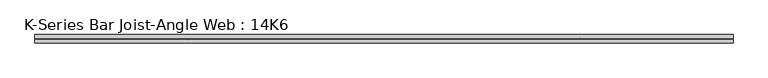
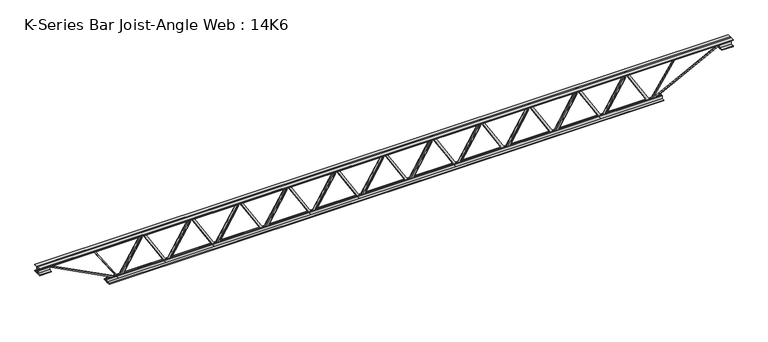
"""IFC4 building model written with IfcOpenShell, lengths in millimetres: beam geometry, K-Series Bar Joist-Angle Web : 14K6."""

from ifc_helpers import new_model, si_unit, frame, origin, place, context, project, spatial, polyline, outline, extrude, faceted_brep, source, transform, mapped, element, save


def k_series_bar_joist_angle_web_14k6_8be7365d(model_context):
    return source(origin(), model_context, "Body", "SolidModel", [
        extrude(outline(polyline([(-4.7625, 4.7625), (-4.7625, 0.0), (-17.4625, 0.0), (-17.4625, 4.7625), (-4.7625, 4.7625)])), frame((1879.0809131, 0.0, -139.7), z_axis=(-0.5175721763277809, 0.0, 0.8556395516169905), x_axis=(0.0, -1.0, 0.0)), (0.0, 0.0, 1.0), 326.5393698),
        extrude(outline(polyline([(-174.625, 1911.9272727), (-155.575, 1911.9272727), (-155.575, 1910.9476708), (174.625, 1711.2113072), (174.625, 1693.1409091), (155.575, 1693.1409091), (155.575, 1700.470511), (-174.625, 1900.2068746), (-174.625, 1911.9272727)])), frame((0.0, 0.0, 0.0), z_axis=(0.0, 1.0, 0.0), x_axis=(0.0, 0.0, 1.0)), (0.0, 0.0, 1.0), 4.7625),
        faceted_brep([(1487.0545455, 0.0, -155.575), (1487.0545455, 0.0, -174.625), (1487.0545455, -4.7625, -174.625), (1487.0545455, -4.7625, -155.575), (1488.0341474, 0.0, -155.575), (1687.770511, 0.0, 174.625), (1705.8409091, 0.0, 174.625), (1705.8409091, 0.0, 155.575), (1698.5113072, 0.0, 155.575), (1498.7749436, 0.0, -174.625), (1498.7749436, -4.7625, -174.625), (1519.9009051, -4.7625, -139.7), (1515.8259217, -4.7625, -137.2350625), (1684.833614, -4.7625, 142.1649375), (1688.9085974, -4.7625, 139.7), (1698.5113072, -4.7625, 155.575), (1705.8409091, -4.7625, 155.575), (1705.8409091, -4.7625, 174.625), (1687.770511, -4.7625, 174.625), (1488.0341474, -4.7625, -155.575), (1688.9085974, -17.4625, 139.7), (1519.9009051, -17.4625, -139.7), (1515.8259217, -17.4625, -137.2350625), (1684.833614, -17.4625, 142.1649375)], [[[0, 1, 2, 3]], [[1, 0, 4, 5, 6, 7, 8, 9]], [[2, 1, 9, 10]], [[3, 2, 10, 11, 12, 13, 14, 15, 16, 17, 18, 19]], [[0, 3, 19, 4]], [[9, 8, 15, 14, 20, 21, 11, 10]], [[5, 4, 19, 18]], [[7, 6, 17, 16]], [[8, 7, 16, 15]], [[6, 5, 18, 17]], [[21, 22, 12, 11]], [[20, 14, 13, 23]], [[22, 21, 20, 23]], [[12, 22, 23, 13]]]),
        extrude(outline(polyline([(-4.7625, 4.7625), (-4.7625, 0.0), (-17.4625, 0.0), (-17.4625, 4.7625), (-4.7625, 4.7625)])), frame((1454.2081858, 0.0, -139.7), z_axis=(-0.5175721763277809, 0.0, 0.8556395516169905), x_axis=(0.0, -1.0, 0.0)), (0.0, 0.0, 1.0), 326.5393698),
        extrude(outline(polyline([(-174.625, 1487.0545455), (-155.575, 1487.0545455), (-155.575, 1486.0749436), (174.625, 1286.3385799), (174.625, 1268.2681818), (155.575, 1268.2681818), (155.575, 1275.5977837), (-174.625, 1475.3341474), (-174.625, 1487.0545455)])), frame((0.0, 0.0, 0.0), z_axis=(0.0, 1.0, 0.0), x_axis=(0.0, 0.0, 1.0)), (0.0, 0.0, 1.0), 4.7625),
        faceted_brep([(1062.1818182, 0.0, -155.575), (1062.1818182, 0.0, -174.625), (1062.1818182, -4.7625, -174.625), (1062.1818182, -4.7625, -155.575), (1063.1614201, 0.0, -155.575), (1262.8977837, 0.0, 174.625), (1280.9681818, 0.0, 174.625), (1280.9681818, 0.0, 155.575), (1273.6385799, 0.0, 155.575), (1073.9022163, 0.0, -174.625), (1073.9022163, -4.7625, -174.625), (1095.0281778, -4.7625, -139.7), (1090.9531945, -4.7625, -137.2350625), (1259.9608868, -4.7625, 142.1649375), (1264.0358701, -4.7625, 139.7), (1273.6385799, -4.7625, 155.575), (1280.9681818, -4.7625, 155.575), (1280.9681818, -4.7625, 174.625), (1262.8977837, -4.7625, 174.625), (1063.1614201, -4.7625, -155.575), (1264.0358701, -17.4625, 139.7), (1095.0281778, -17.4625, -139.7), (1090.9531945, -17.4625, -137.2350625), (1259.9608868, -17.4625, 142.1649375)], [[[0, 1, 2, 3]], [[1, 0, 4, 5, 6, 7, 8, 9]], [[2, 1, 9, 10]], [[3, 2, 10, 11, 12, 13, 14, 15, 16, 17, 18, 19]], [[0, 3, 19, 4]], [[9, 8, 15, 14, 20, 21, 11, 10]], [[5, 4, 19, 18]], [[7, 6, 17, 16]], [[8, 7, 16, 15]], [[6, 5, 18, 17]], [[21, 22, 12, 11]], [[20, 14, 13, 23]], [[22, 21, 20, 23]], [[12, 22, 23, 13]]]),
        extrude(outline(polyline([(-4.7625, 4.7625), (-4.7625, 0.0), (-17.4625, 0.0), (-17.4625, 4.7625), (-4.7625, 4.7625)])), frame((1029.3354585, 0.0, -139.7), z_axis=(-0.5175721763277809, 0.0, 0.8556395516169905), x_axis=(0.0, -1.0, 0.0)), (0.0, 0.0, 1.0), 326.5393698),
        extrude(outline(polyline([(-174.625, 1062.1818182), (-155.575, 1062.1818182), (-155.575, 1061.2022163), (174.625, 861.4658526), (174.625, 843.3954545), (155.575, 843.3954545), (155.575, 850.7250564), (-174.625, 1050.4614201), (-174.625, 1062.1818182)])), frame((0.0, 0.0, 0.0), z_axis=(0.0, 1.0, 0.0), x_axis=(0.0, 0.0, 1.0)), (0.0, 0.0, 1.0), 4.7625),
        faceted_brep([(637.3090909, 0.0, -155.575), (637.3090909, 0.0, -174.625), (637.3090909, -4.7625, -174.625), (637.3090909, -4.7625, -155.575), (638.2886928, 0.0, -155.575), (838.0250564, 0.0, 174.625), (856.0954545, 0.0, 174.625), (856.0954545, 0.0, 155.575), (848.7658526, 0.0, 155.575), (649.029489, 0.0, -174.625), (649.029489, -4.7625, -174.625), (670.1554505, -4.7625, -139.7), (666.0804672, -4.7625, -137.2350625), (835.0881595, -4.7625, 142.1649375), (839.1631429, -4.7625, 139.7), (848.7658526, -4.7625, 155.575), (856.0954545, -4.7625, 155.575), (856.0954545, -4.7625, 174.625), (838.0250564, -4.7625, 174.625), (638.2886928, -4.7625, -155.575), (839.1631429, -17.4625, 139.7), (670.1554505, -17.4625, -139.7), (666.0804672, -17.4625, -137.2350625), (835.0881595, -17.4625, 142.1649375)], [[[0, 1, 2, 3]], [[1, 0, 4, 5, 6, 7, 8, 9]], [[2, 1, 9, 10]], [[3, 2, 10, 11, 12, 13, 14, 15, 16, 17, 18, 19]], [[0, 3, 19, 4]], [[9, 8, 15, 14, 20, 21, 11, 10]], [[5, 4, 19, 18]], [[7, 6, 17, 16]], [[8, 7, 16, 15]], [[6, 5, 18, 17]], [[21, 22, 12, 11]], [[20, 14, 13, 23]], [[22, 21, 20, 23]], [[12, 22, 23, 13]]]),
        extrude(outline(polyline([(-4.7625, 4.7625), (-4.7625, 0.0), (-17.4625, 0.0), (-17.4625, 4.7625), (-4.7625, 4.7625)])), frame((604.4627313, 0.0, -139.7), z_axis=(-0.5175721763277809, 0.0, 0.8556395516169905), x_axis=(0.0, -1.0, 0.0)), (0.0, 0.0, 1.0), 326.5393698),
        extrude(outline(polyline([(-174.625, 637.3090909), (-155.575, 637.3090909), (-155.575, 636.329489), (174.625, 436.5931254), (174.625, 418.5227273), (155.575, 418.5227273), (155.575, 425.8523292), (-174.625, 625.5886928), (-174.625, 637.3090909)])), frame((0.0, 0.0, 0.0), z_axis=(0.0, 1.0, 0.0), x_axis=(0.0, 0.0, 1.0)), (0.0, 0.0, 1.0), 4.7625),
        faceted_brep([(212.4363636, 0.0, -155.575), (212.4363636, 0.0, -174.625), (212.4363636, -4.7625, -174.625), (212.4363636, -4.7625, -155.575), (213.4159655, 0.0, -155.575), (413.1523292, 0.0, 174.625), (431.2227273, 0.0, 174.625), (431.2227273, 0.0, 155.575), (423.8931254, 0.0, 155.575), (224.1567617, 0.0, -174.625), (224.1567617, -4.7625, -174.625), (245.2827233, -4.7625, -139.7), (241.2077399, -4.7625, -137.2350625), (410.2154322, -4.7625, 142.1649375), (414.2904156, -4.7625, 139.7), (423.8931254, -4.7625, 155.575), (431.2227273, -4.7625, 155.575), (431.2227273, -4.7625, 174.625), (413.1523292, -4.7625, 174.625), (213.4159655, -4.7625, -155.575), (414.2904156, -17.4625, 139.7), (245.2827233, -17.4625, -139.7), (241.2077399, -17.4625, -137.2350625), (410.2154322, -17.4625, 142.1649375)], [[[0, 1, 2, 3]], [[1, 0, 4, 5, 6, 7, 8, 9]], [[2, 1, 9, 10]], [[3, 2, 10, 11, 12, 13, 14, 15, 16, 17, 18, 19]], [[0, 3, 19, 4]], [[9, 8, 15, 14, 20, 21, 11, 10]], [[5, 4, 19, 18]], [[7, 6, 17, 16]], [[8, 7, 16, 15]], [[6, 5, 18, 17]], [[21, 22, 12, 11]], [[20, 14, 13, 23]], [[22, 21, 20, 23]], [[12, 22, 23, 13]]]),
        extrude(outline(polyline([(-4.7625, 4.7625), (-4.7625, 0.0), (-17.4625, 0.0), (-17.4625, 4.7625), (-4.7625, 4.7625)])), frame((179.590004, 0.0, -139.7), z_axis=(-0.5175721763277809, 0.0, 0.8556395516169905), x_axis=(0.0, -1.0, 0.0)), (0.0, 0.0, 1.0), 326.5393698),
        extrude(outline(polyline([(-174.625, 212.4363636), (-155.575, 212.4363636), (-155.575, 211.4567617), (174.625, 11.7203981), (174.625, -6.35), (155.575, -6.35), (155.575, 0.9796019), (-174.625, 200.7159655), (-174.625, 212.4363636)])), frame((0.0, 0.0, 0.0), z_axis=(0.0, 1.0, 0.0), x_axis=(0.0, 0.0, 1.0)), (0.0, 0.0, 1.0), 4.7625),
        faceted_brep([(-212.4363636, 0.0, -155.575), (-212.4363636, 0.0, -174.625), (-212.4363636, -4.7625, -174.625), (-212.4363636, -4.7625, -155.575), (-211.4567617, 0.0, -155.575), (-11.7203981, 0.0, 174.625), (6.35, 0.0, 174.625), (6.35, 0.0, 155.575), (-0.9796019, 0.0, 155.575), (-200.7159655, 0.0, -174.625), (-200.7159655, -4.7625, -174.625), (-179.590004, -4.7625, -139.7), (-183.6649874, -4.7625, -137.2350625), (-14.6572951, -4.7625, 142.1649375), (-10.5823117, -4.7625, 139.7), (-0.9796019, -4.7625, 155.575), (6.35, -4.7625, 155.575), (6.35, -4.7625, 174.625), (-11.7203981, -4.7625, 174.625), (-211.4567617, -4.7625, -155.575), (-10.5823117, -17.4625, 139.7), (-179.590004, -17.4625, -139.7), (-183.6649874, -17.4625, -137.2350625), (-14.6572951, -17.4625, 142.1649375)], [[[0, 1, 2, 3]], [[1, 0, 4, 5, 6, 7, 8, 9]], [[2, 1, 9, 10]], [[3, 2, 10, 11, 12, 13, 14, 15, 16, 17, 18, 19]], [[0, 3, 19, 4]], [[9, 8, 15, 14, 20, 21, 11, 10]], [[5, 4, 19, 18]], [[7, 6, 17, 16]], [[8, 7, 16, 15]], [[6, 5, 18, 17]], [[21, 22, 12, 11]], [[20, 14, 13, 23]], [[22, 21, 20, 23]], [[12, 22, 23, 13]]]),
        extrude(outline(polyline([(-4.7625, 4.7625), (-4.7625, 0.0), (-17.4625, 0.0), (-17.4625, 4.7625), (-4.7625, 4.7625)])), frame((-245.2827233, 0.0, -139.7), z_axis=(-0.5175721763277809, 0.0, 0.8556395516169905), x_axis=(0.0, -1.0, 0.0)), (0.0, 0.0, 1.0), 326.5393698),
        extrude(outline(polyline([(-174.625, -212.4363636), (-155.575, -212.4363636), (-155.575, -213.4159655), (174.625, -413.1523292), (174.625, -431.2227273), (155.575, -431.2227273), (155.575, -423.8931254), (-174.625, -224.1567617), (-174.625, -212.4363636)])), frame((0.0, 0.0, 0.0), z_axis=(0.0, 1.0, 0.0), x_axis=(0.0, 0.0, 1.0)), (0.0, 0.0, 1.0), 4.7625),
        faceted_brep([(-637.3090909, 0.0, -155.575), (-637.3090909, 0.0, -174.625), (-637.3090909, -4.7625, -174.625), (-637.3090909, -4.7625, -155.575), (-636.329489, 0.0, -155.575), (-436.5931254, 0.0, 174.625), (-418.5227273, 0.0, 174.625), (-418.5227273, 0.0, 155.575), (-425.8523292, 0.0, 155.575), (-625.5886928, 0.0, -174.625), (-625.5886928, -4.7625, -174.625), (-604.4627313, -4.7625, -139.7), (-608.5377146, -4.7625, -137.2350625), (-439.5300223, -4.7625, 142.1649375), (-435.455039, -4.7625, 139.7), (-425.8523292, -4.7625, 155.575), (-418.5227273, -4.7625, 155.575), (-418.5227273, -4.7625, 174.625), (-436.5931254, -4.7625, 174.625), (-636.329489, -4.7625, -155.575), (-435.455039, -17.4625, 139.7), (-604.4627313, -17.4625, -139.7), (-608.5377146, -17.4625, -137.2350625), (-439.5300223, -17.4625, 142.1649375)], [[[0, 1, 2, 3]], [[1, 0, 4, 5, 6, 7, 8, 9]], [[2, 1, 9, 10]], [[3, 2, 10, 11, 12, 13, 14, 15, 16, 17, 18, 19]], [[0, 3, 19, 4]], [[9, 8, 15, 14, 20, 21, 11, 10]], [[5, 4, 19, 18]], [[7, 6, 17, 16]], [[8, 7, 16, 15]], [[6, 5, 18, 17]], [[21, 22, 12, 11]], [[20, 14, 13, 23]], [[22, 21, 20, 23]], [[12, 22, 23, 13]]]),
        extrude(outline(polyline([(-4.7625, 4.7625), (-4.7625, 0.0), (-17.4625, 0.0), (-17.4625, 4.7625), (-4.7625, 4.7625)])), frame((-670.1554505, 0.0, -139.7), z_axis=(-0.5175721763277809, 0.0, 0.8556395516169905), x_axis=(0.0, -1.0, 0.0)), (0.0, 0.0, 1.0), 326.5393698),
        extrude(outline(polyline([(-174.625, -637.3090909), (-155.575, -637.3090909), (-155.575, -638.2886928), (174.625, -838.0250564), (174.625, -856.0954545), (155.575, -856.0954545), (155.575, -848.7658526), (-174.625, -649.029489), (-174.625, -637.3090909)])), frame((0.0, 0.0, 0.0), z_axis=(0.0, 1.0, 0.0), x_axis=(0.0, 0.0, 1.0)), (0.0, 0.0, 1.0), 4.7625),
        faceted_brep([(-1062.1818182, 0.0, -155.575), (-1062.1818182, 0.0, -174.625), (-1062.1818182, -4.7625, -174.625), (-1062.1818182, -4.7625, -155.575), (-1061.2022163, 0.0, -155.575), (-861.4658526, 0.0, 174.625), (-843.3954545, 0.0, 174.625), (-843.3954545, 0.0, 155.575), (-850.7250564, 0.0, 155.575), (-1050.4614201, 0.0, -174.625), (-1050.4614201, -4.7625, -174.625), (-1029.3354585, -4.7625, -139.7), (-1033.4104419, -4.7625, -137.2350625), (-864.4027496, -4.7625, 142.1649375), (-860.3277662, -4.7625, 139.7), (-850.7250564, -4.7625, 155.575), (-843.3954545, -4.7625, 155.575), (-843.3954545, -4.7625, 174.625), (-861.4658526, -4.7625, 174.625), (-1061.2022163, -4.7625, -155.575), (-860.3277662, -17.4625, 139.7), (-1029.3354585, -17.4625, -139.7), (-1033.4104419, -17.4625, -137.2350625), (-864.4027496, -17.4625, 142.1649375)], [[[0, 1, 2, 3]], [[1, 0, 4, 5, 6, 7, 8, 9]], [[2, 1, 9, 10]], [[3, 2, 10, 11, 12, 13, 14, 15, 16, 17, 18, 19]], [[0, 3, 19, 4]], [[9, 8, 15, 14, 20, 21, 11, 10]], [[5, 4, 19, 18]], [[7, 6, 17, 16]], [[8, 7, 16, 15]], [[6, 5, 18, 17]], [[21, 22, 12, 11]], [[20, 14, 13, 23]], [[22, 21, 20, 23]], [[12, 22, 23, 13]]]),
        extrude(outline(polyline([(-4.7625, 4.7625), (-4.7625, 0.0), (-17.4625, 0.0), (-17.4625, 4.7625), (-4.7625, 4.7625)])), frame((-1095.0281778, 0.0, -139.7), z_axis=(-0.5175721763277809, 0.0, 0.8556395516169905), x_axis=(0.0, -1.0, 0.0)), (0.0, 0.0, 1.0), 326.5393698),
        extrude(outline(polyline([(-174.625, -1062.1818182), (-155.575, -1062.1818182), (-155.575, -1063.1614201), (174.625, -1262.8977837), (174.625, -1280.9681818), (155.575, -1280.9681818), (155.575, -1273.6385799), (-174.625, -1073.9022163), (-174.625, -1062.1818182)])), frame((0.0, 0.0, 0.0), z_axis=(0.0, 1.0, 0.0), x_axis=(0.0, 0.0, 1.0)), (0.0, 0.0, 1.0), 4.7625),
        faceted_brep([(-1487.0545455, 0.0, -155.575), (-1487.0545455, 0.0, -174.625), (-1487.0545455, -4.7625, -174.625), (-1487.0545455, -4.7625, -155.575), (-1486.0749436, 0.0, -155.575), (-1286.3385799, 0.0, 174.625), (-1268.2681818, 0.0, 174.625), (-1268.2681818, 0.0, 155.575), (-1275.5977837, 0.0, 155.575), (-1475.3341474, 0.0, -174.625), (-1475.3341474, -4.7625, -174.625), (-1454.2081858, -4.7625, -139.7), (-1458.2831692, -4.7625, -137.2350625), (-1289.2754769, -4.7625, 142.1649375), (-1285.2004935, -4.7625, 139.7), (-1275.5977837, -4.7625, 155.575), (-1268.2681818, -4.7625, 155.575), (-1268.2681818, -4.7625, 174.625), (-1286.3385799, -4.7625, 174.625), (-1486.0749436, -4.7625, -155.575), (-1285.2004935, -17.4625, 139.7), (-1454.2081858, -17.4625, -139.7), (-1458.2831692, -17.4625, -137.2350625), (-1289.2754769, -17.4625, 142.1649375)], [[[0, 1, 2, 3]], [[1, 0, 4, 5, 6, 7, 8, 9]], [[2, 1, 9, 10]], [[3, 2, 10, 11, 12, 13, 14, 15, 16, 17, 18, 19]], [[0, 3, 19, 4]], [[9, 8, 15, 14, 20, 21, 11, 10]], [[5, 4, 19, 18]], [[7, 6, 17, 16]], [[8, 7, 16, 15]], [[6, 5, 18, 17]], [[21, 22, 12, 11]], [[20, 14, 13, 23]], [[22, 21, 20, 23]], [[12, 22, 23, 13]]]),
        extrude(outline(polyline([(-4.7625, 4.7625), (-4.7625, 0.0), (-17.4625, 0.0), (-17.4625, 4.7625), (-4.7625, 4.7625)])), frame((-1519.9009051, 0.0, -139.7), z_axis=(-0.5175721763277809, 0.0, 0.8556395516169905), x_axis=(0.0, -1.0, 0.0)), (0.0, 0.0, 1.0), 326.5393698),
        extrude(outline(polyline([(-174.625, -1487.0545455), (-155.575, -1487.0545455), (-155.575, -1488.0341474), (174.625, -1687.770511), (174.625, -1705.8409091), (155.575, -1705.8409091), (155.575, -1698.5113072), (-174.625, -1498.7749436), (-174.625, -1487.0545455)])), frame((0.0, 0.0, 0.0), z_axis=(0.0, 1.0, 0.0), x_axis=(0.0, 0.0, 1.0)), (0.0, 0.0, 1.0), 4.7625),
        faceted_brep([(-1911.9272727, 0.0, -155.575), (-1911.9272727, 0.0, -174.625), (-1911.9272727, -4.7625, -174.625), (-1911.9272727, -4.7625, -155.575), (-1910.9476708, 0.0, -155.575), (-1711.2113072, 0.0, 174.625), (-1693.1409091, 0.0, 174.625), (-1693.1409091, 0.0, 155.575), (-1700.470511, 0.0, 155.575), (-1900.2068746, 0.0, -174.625), (-1900.2068746, -4.7625, -174.625), (-1879.0809131, -4.7625, -139.7), (-1883.1558965, -4.7625, -137.2350625), (-1714.1482041, -4.7625, 142.1649375), (-1710.0732208, -4.7625, 139.7), (-1700.470511, -4.7625, 155.575), (-1693.1409091, -4.7625, 155.575), (-1693.1409091, -4.7625, 174.625), (-1711.2113072, -4.7625, 174.625), (-1910.9476708, -4.7625, -155.575), (-1710.0732208, -17.4625, 139.7), (-1879.0809131, -17.4625, -139.7), (-1883.1558965, -17.4625, -137.2350625), (-1714.1482041, -17.4625, 142.1649375)], [[[0, 1, 2, 3]], [[1, 0, 4, 5, 6, 7, 8, 9]], [[2, 1, 9, 10]], [[3, 2, 10, 11, 12, 13, 14, 15, 16, 17, 18, 19]], [[0, 3, 19, 4]], [[9, 8, 15, 14, 20, 21, 11, 10]], [[5, 4, 19, 18]], [[7, 6, 17, 16]], [[8, 7, 16, 15]], [[6, 5, 18, 17]], [[21, 22, 12, 11]], [[20, 14, 13, 23]], [[22, 21, 20, 23]], [[12, 22, 23, 13]]]),
        extrude(outline(polyline([(-4.7625, 4.7625), (-4.7625, 0.0), (-17.4625, 0.0), (-17.4625, 4.7625), (-4.7625, 4.7625)])), frame((2303.9536404, 0.0, -139.7), z_axis=(-0.5175721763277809, 0.0, 0.8556395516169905), x_axis=(0.0, -1.0, 0.0)), (0.0, 0.0, 1.0), 326.5393698),
        extrude(outline(polyline([(-174.625, 2336.8), (-155.575, 2336.8), (-155.575, 2335.8203981), (174.625, 2136.0840345), (174.625, 2118.0136364), (155.575, 2118.0136364), (155.575, 2125.3432383), (-174.625, 2325.0796019), (-174.625, 2336.8)])), frame((0.0, 0.0, 0.0), z_axis=(0.0, 1.0, 0.0), x_axis=(0.0, 0.0, 1.0)), (0.0, 0.0, 1.0), 4.7625),
        faceted_brep([(1911.9272727, 0.0, -155.575), (1911.9272727, 0.0, -174.625), (1911.9272727, -4.7625, -174.625), (1911.9272727, -4.7625, -155.575), (1912.9068746, 0.0, -155.575), (2112.6432383, 0.0, 174.625), (2130.7136364, 0.0, 174.625), (2130.7136364, 0.0, 155.575), (2123.3840345, 0.0, 155.575), (1923.6476708, 0.0, -174.625), (1923.6476708, -4.7625, -174.625), (1944.7736324, -4.7625, -139.7), (1940.698649, -4.7625, -137.2350625), (2109.7063413, -4.7625, 142.1649375), (2113.7813247, -4.7625, 139.7), (2123.3840345, -4.7625, 155.575), (2130.7136364, -4.7625, 155.575), (2130.7136364, -4.7625, 174.625), (2112.6432383, -4.7625, 174.625), (1912.9068746, -4.7625, -155.575), (2113.7813247, -17.4625, 139.7), (1944.7736324, -17.4625, -139.7), (1940.698649, -17.4625, -137.2350625), (2109.7063413, -17.4625, 142.1649375)], [[[0, 1, 2, 3]], [[1, 0, 4, 5, 6, 7, 8, 9]], [[2, 1, 9, 10]], [[3, 2, 10, 11, 12, 13, 14, 15, 16, 17, 18, 19]], [[0, 3, 19, 4]], [[9, 8, 15, 14, 20, 21, 11, 10]], [[5, 4, 19, 18]], [[7, 6, 17, 16]], [[8, 7, 16, 15]], [[6, 5, 18, 17]], [[21, 22, 12, 11]], [[20, 14, 13, 23]], [[22, 21, 20, 23]], [[12, 22, 23, 13]]]),
        extrude(outline(polyline([(-4.7625, 4.7625), (-4.7625, 0.0), (-17.4625, 0.0), (-17.4625, 4.7625), (-4.7625, 4.7625)])), frame((-1944.7736324, 0.0, -139.7), z_axis=(-0.5175721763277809, 0.0, 0.8556395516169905), x_axis=(0.0, -1.0, 0.0)), (0.0, 0.0, 1.0), 326.5393698),
        extrude(outline(polyline([(-174.625, -1911.9272727), (-155.575, -1911.9272727), (-155.575, -1912.9068746), (174.625, -2112.6432383), (174.625, -2130.7136364), (155.575, -2130.7136364), (155.575, -2123.3840345), (-174.625, -1923.6476708), (-174.625, -1911.9272727)])), frame((0.0, 0.0, 0.0), z_axis=(0.0, 1.0, 0.0), x_axis=(0.0, 0.0, 1.0)), (0.0, 0.0, 1.0), 4.7625),
        faceted_brep([(-2336.8, 0.0, -155.575), (-2336.8, 0.0, -174.625), (-2336.8, -4.7625, -174.625), (-2336.8, -4.7625, -155.575), (-2335.8203981, 0.0, -155.575), (-2136.0840345, 0.0, 174.625), (-2118.0136364, 0.0, 174.625), (-2118.0136364, 0.0, 155.575), (-2125.3432383, 0.0, 155.575), (-2325.0796019, 0.0, -174.625), (-2325.0796019, -4.7625, -174.625), (-2303.9536404, -4.7625, -139.7), (-2308.0286237, -4.7625, -137.2350625), (-2139.0209314, -4.7625, 142.1649375), (-2134.9459481, -4.7625, 139.7), (-2125.3432383, -4.7625, 155.575), (-2118.0136364, -4.7625, 155.575), (-2118.0136364, -4.7625, 174.625), (-2136.0840345, -4.7625, 174.625), (-2335.8203981, -4.7625, -155.575), (-2134.9459481, -17.4625, 139.7), (-2303.9536404, -17.4625, -139.7), (-2308.0286237, -17.4625, -137.2350625), (-2139.0209314, -17.4625, 142.1649375)], [[[0, 1, 2, 3]], [[1, 0, 4, 5, 6, 7, 8, 9]], [[2, 1, 9, 10]], [[3, 2, 10, 11, 12, 13, 14, 15, 16, 17, 18, 19]], [[0, 3, 19, 4]], [[9, 8, 15, 14, 20, 21, 11, 10]], [[5, 4, 19, 18]], [[7, 6, 17, 16]], [[8, 7, 16, 15]], [[6, 5, 18, 17]], [[21, 22, 12, 11]], [[20, 14, 13, 23]], [[22, 21, 20, 23]], [[12, 22, 23, 13]]]),
        extrude(outline(polyline([(4.7625, 177.8), (36.5125, 177.8), (36.5125, 171.45), (11.1125, 171.45), (11.1125, 146.05), (4.7625, 146.05), (4.7625, 177.8)])), frame((-3048.0, 0.0, 0.0), z_axis=(1.0, 0.0, 0.0), x_axis=(0.0, 1.0, 0.0)), (0.0, 0.0, 1.0), 6096.0),
        extrude(outline(polyline([(-4.7625, 177.8), (-4.7625, 146.05), (-11.1125, 146.05), (-11.1125, 171.45), (-36.5125, 171.45), (-36.5125, 177.8), (-4.7625, 177.8)])), frame((-3048.0, 0.0, 0.0), z_axis=(1.0, 0.0, 0.0), x_axis=(0.0, 1.0, 0.0)), (0.0, 0.0, 1.0), 6096.0),
        extrude(outline(polyline([(-4.7625, 114.3), (-36.5125, 114.3), (-36.5125, 120.65), (-11.1125, 120.65), (-11.1125, 146.05), (-4.7625, 146.05), (-4.7625, 114.3)])), frame((-3048.0, 0.0, 0.0), z_axis=(1.0, 0.0, 0.0), x_axis=(0.0, 1.0, 0.0)), (0.0, 0.0, 1.0), 101.6),
        extrude(outline(polyline([(36.5125, 114.3), (4.7625, 114.3), (4.7625, 146.05), (11.1125, 146.05), (11.1125, 120.65), (36.5125, 120.65), (36.5125, 114.3)])), frame((-3048.0, 0.0, 0.0), z_axis=(1.0, 0.0, 0.0), x_axis=(0.0, 1.0, 0.0)), (0.0, 0.0, 1.0), 101.6),
        extrude(outline(polyline([(4.7625, 114.3), (4.7625, 146.05), (11.1125, 146.05), (11.1125, 120.65), (36.5125, 120.65), (36.5125, 114.3), (4.7625, 114.3)])), frame((2946.4, 0.0, 0.0), z_axis=(1.0, 0.0, 0.0), x_axis=(0.0, 1.0, 0.0)), (0.0, 0.0, 1.0), 101.6),
        extrude(outline(polyline([(-4.7625, 114.3), (-36.5125, 114.3), (-36.5125, 120.65), (-11.1125, 120.65), (-11.1125, 146.05), (-4.7625, 146.05), (-4.7625, 114.3)])), frame((2946.4, 0.0, 0.0), z_axis=(1.0, 0.0, 0.0), x_axis=(0.0, 1.0, 0.0)), (0.0, 0.0, 1.0), 101.6),
        extrude(outline(polyline([(4.7625, -177.8), (4.7625, -146.05), (11.1125, -146.05), (11.1125, -171.45), (36.5125, -171.45), (36.5125, -177.8), (4.7625, -177.8)])), frame((-2438.4, 0.0, 0.0), z_axis=(1.0, 0.0, 0.0), x_axis=(0.0, 1.0, 0.0)), (0.0, 0.0, 1.0), 4876.8),
        extrude(outline(polyline([(-4.7625, -177.8), (-36.5125, -177.8), (-36.5125, -171.45), (-11.1125, -171.45), (-11.1125, -146.05), (-4.7625, -146.05), (-4.7625, -177.8)])), frame((-2438.4, 0.0, 0.0), z_axis=(1.0, 0.0, 0.0), x_axis=(0.0, 1.0, 0.0)), (0.0, 0.0, 1.0), 4876.8),
        extrude(outline(polyline([(4.7625, 4.7625), (4.7625, -4.7625), (-4.7625, -4.7625), (-4.7625, 4.7625), (4.7625, 4.7625)])), frame((2336.8, 0.0, -171.45), z_axis=(0.5560943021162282, 0.0, 0.8311192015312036), x_axis=(0.0, -1.0, 0.0)), (0.0, 0.0, 1.0), 382.0149979),
        extrude(outline(polyline([(4.7625, 4.7625), (4.7625, -4.7625), (-4.7625, -4.7625), (-4.7625, 4.7625), (4.7625, 4.7625)])), frame((-2336.8, 0.0, -171.45), z_axis=(-0.5560943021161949, 0.0, 0.8311192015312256), x_axis=(0.0, -1.0, 0.0)), (0.0, 0.0, 1.0), 382.0149979),
        extrude(outline(polyline([(0.0, -9.525), (0.0, 0.0), (687.3270037, 0.0), (687.3270037, -9.525), (0.0, -9.525)])), frame((2948.5999627, -4.7625, 141.8260717), z_axis=(-0.4619344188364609, 0.0, 0.886914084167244), x_axis=(-0.886914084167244, 0.0, -0.4619344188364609)), (0.0, 0.0, 1.0), 9.525),
        extrude(outline(polyline([(0.0, -9.525), (0.0, 0.0), (687.3270037, 0.0), (687.3270037, -9.525), (0.0, -9.525)])), frame((-2948.5999627, 4.7625, 141.8260717), z_axis=(0.4619344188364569, 0.0, 0.886914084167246), x_axis=(0.886914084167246, 0.0, -0.4619344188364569)), (0.0, 0.0, 1.0), 9.525),
    ])


if __name__ == "__main__":
    model = new_model("IFC4")
    model_context = context("Model", 3, world=origin())
    ifc_project = project(units=[si_unit("LENGTHUNIT", "METRE", prefix="MILLI")], contexts=[model_context])
    site = spatial("IfcSite", under=ifc_project)
    building = spatial("IfcBuilding", under=site)
    placement = place(None, origin())
    k_series_bar_joist_angle_web_14k6_shape = k_series_bar_joist_angle_web_14k6_8be7365d(model_context)
    element("IfcBeam", 1, ObjectType="K-Series Bar Joist-Angle Web : 14K6", at=placement, inside=building, context=model_context, shape_type="MappedRepresentation", body=[
        mapped(k_series_bar_joist_angle_web_14k6_shape, transform((0.0, 0.0, 0.0), x_axis=(1.0, 0.0, 0.0), y_axis=(0.0, 1.0, 0.0), z_axis=(0.0, 0.0, 1.0))),
    ])
    save(model, "model.ifc")
